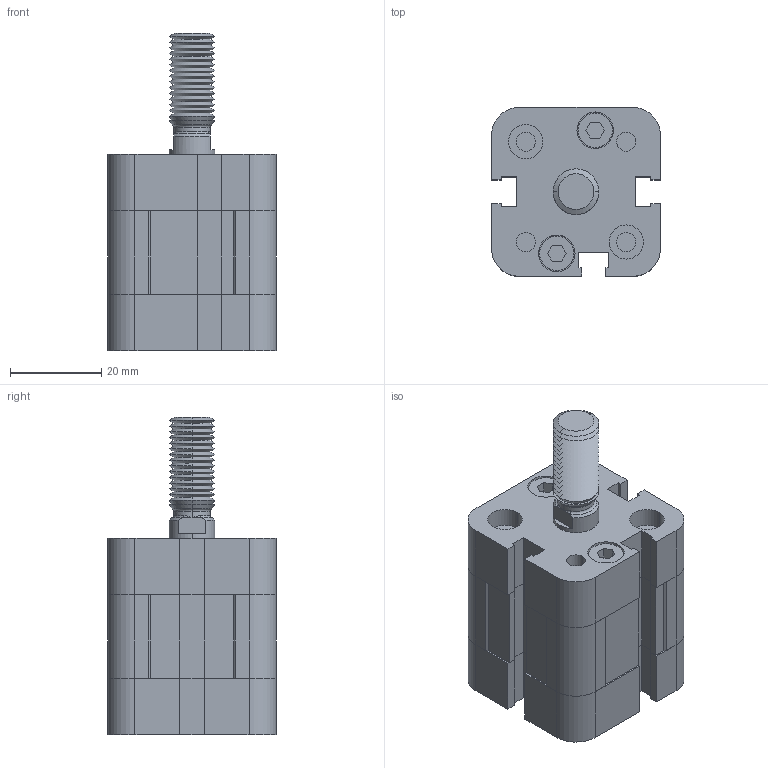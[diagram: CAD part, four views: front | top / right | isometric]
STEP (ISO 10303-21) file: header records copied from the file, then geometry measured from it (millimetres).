
FILE_DESCRIPTION (( 'STEP AP203' ), '1' );
FILE_NAME ('NSKU020.0005 M.STEP', '2010-06-16T12:41:28', ( 'Vesta Automation srl' ), ( 'Vesta Automation srl' ), 'SwSTEP 2.0', 'SolidWorks 2009', '' );
FILE_SCHEMA (( 'CONFIG_CONTROL_DESIGN' ));
Length unit declared in the file: millimetre
Products named in the file (5): NSKU020.0005 M; FRONT END CAP-NSKU 20; REAR END CAP-NSKU 20; PISTON ROD-NSKU 020 M_STROKE 0005; BARREL-NSKU20_STROKE 0005
Assembly tree (4 placements, depth 2):
  NSKU020.0005 M
    BARREL-NSKU20_STROKE 0005
    REAR END CAP-NSKU 20
    PISTON ROD-NSKU 020 M_STROKE 0005
    FRONT END CAP-NSKU 20
Bounding box: 37 x 37 x 69.5 mm (x, y, z)
Volume: 49888.8 mm3; surface area: 22929.6 mm2
Topology: 5 solids, 5 shells, 563 faces, 1384 edges, 860 vertices
Faces by surface type: plane 287, cylinder 156, cone 112, torus 4, bspline 4
Entity records: 17203 total; most frequent: CARTESIAN_POINT 3130, DIRECTION 2880, ORIENTED_EDGE 2760, EDGE_CURVE 1380, LINE 996, VECTOR 996, AXIS2_PLACEMENT_3D 942, VERTEX_POINT 860
